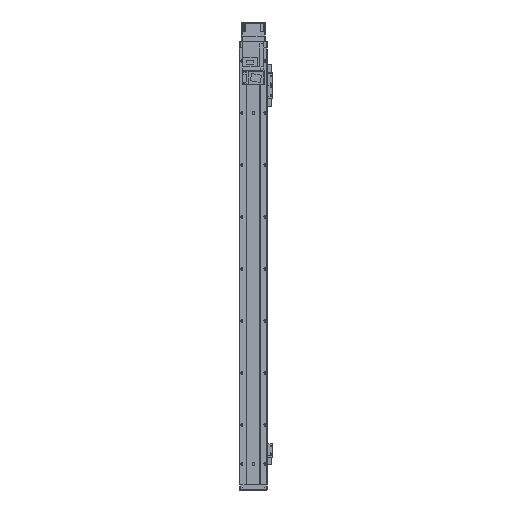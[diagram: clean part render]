
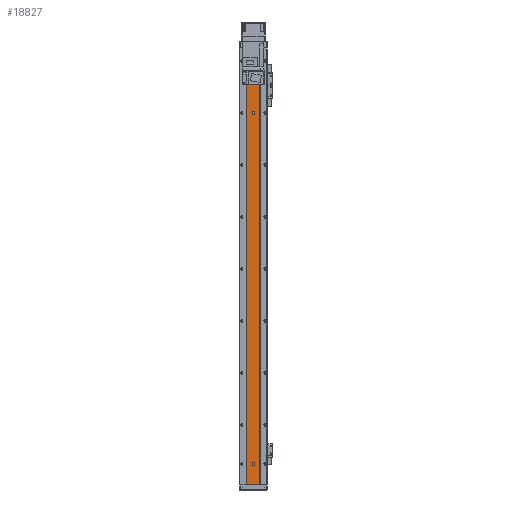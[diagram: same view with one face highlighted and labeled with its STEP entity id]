
A CAD part, front view. The second image highlights one B-rep face of the part: STEP entity #18827.
In plain terms, the highlighted planar face has unit normal (0, -1, 0).
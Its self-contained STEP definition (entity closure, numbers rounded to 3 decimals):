
#12 = EDGE_CURVE ( 'NONE', #6509, #9782, #36230, .T. ) ;
#355 = EDGE_LOOP ( 'NONE', ( #32797, #19000, #18614, #35798 ) ) ;
#561 = ORIENTED_EDGE ( 'NONE', *, *, #7846, .T. ) ;
#1481 = VERTEX_POINT ( 'NONE', #20799 ) ;
#1760 = AXIS2_PLACEMENT_3D ( 'NONE', #36121, #17765, #27318 ) ;
#2688 = CARTESIAN_POINT ( 'NONE',  ( 0., 1.5, -801. ) ) ;
#2728 = PLANE ( 'NONE',  #1760 ) ;
#3124 = VERTEX_POINT ( 'NONE', #3567 ) ;
#3399 = EDGE_CURVE ( 'NONE', #35459, #17438, #39446, .T. ) ;
#3567 = CARTESIAN_POINT ( 'NONE',  ( -2.5, 1.5, -799. ) ) ;
#3863 = EDGE_CURVE ( 'NONE', #3124, #12899, #28018, .T. ) ;
#4097 = EDGE_CURVE ( 'NONE', #12899, #1481, #27980, .T. ) ;
#4432 = VECTOR ( 'NONE', #21939, 1000. ) ;
#6130 = CARTESIAN_POINT ( 'NONE',  ( 0., 1.5, -25. ) ) ;
#6360 = CARTESIAN_POINT ( 'NONE',  ( -12.293, 1.5, -840. ) ) ;
#6509 = VERTEX_POINT ( 'NONE', #25401 ) ;
#6635 = DIRECTION ( 'NONE',  ( 0., -1., 0. ) ) ;
#7000 = DIRECTION ( 'NONE',  ( 0., 0., 1. ) ) ;
#7133 = CARTESIAN_POINT ( 'NONE',  ( -2.5, 1.5, -840. ) ) ;
#7567 = EDGE_LOOP ( 'NONE', ( #14944, #26878 ) ) ;
#7749 = VECTOR ( 'NONE', #9579, 1000. ) ;
#7768 = CIRCLE ( 'NONE', #28824, 2.5 ) ;
#7815 = DIRECTION ( 'NONE',  ( 1., 0., 0. ) ) ;
#7846 = EDGE_CURVE ( 'NONE', #18869, #17438, #17435, .T. ) ;
#8524 = EDGE_CURVE ( 'NONE', #38784, #3124, #7768, .T. ) ;
#8556 = CARTESIAN_POINT ( 'NONE',  ( -12.293, 1.5, 0. ) ) ;
#8659 = FACE_BOUND ( 'NONE', #7567, .T. ) ;
#8785 = DIRECTION ( 'NONE',  ( 0., -1., 0. ) ) ;
#9131 = EDGE_LOOP ( 'NONE', ( #36557, #9765, #32162, #561 ) ) ;
#9286 = EDGE_CURVE ( 'NONE', #37241, #38769, #35399, .T. ) ;
#9422 = DIRECTION ( 'NONE',  ( 1., 0., 0. ) ) ;
#9579 = DIRECTION ( 'NONE',  ( 0., 0., 1. ) ) ;
#9765 = ORIENTED_EDGE ( 'NONE', *, *, #37726, .F. ) ;
#9782 = VERTEX_POINT ( 'NONE', #30561 ) ;
#9800 = VECTOR ( 'NONE', #7815, 1000. ) ;
#10865 = AXIS2_PLACEMENT_3D ( 'NONE', #18620, #12345, #9422 ) ;
#11238 = VECTOR ( 'NONE', #24597, 1000. ) ;
#11714 = VECTOR ( 'NONE', #13510, 1000. ) ;
#11857 = DIRECTION ( 'NONE',  ( 1., 0., 0. ) ) ;
#12345 = DIRECTION ( 'NONE',  ( 0., -1., 0. ) ) ;
#12381 = DIRECTION ( 'NONE',  ( 1., 0., 0. ) ) ;
#12651 = CARTESIAN_POINT ( 'NONE',  ( 12.293, 1.5, -840. ) ) ;
#12899 = VERTEX_POINT ( 'NONE', #36255 ) ;
#12978 = CARTESIAN_POINT ( 'NONE',  ( 12.293, 1.5, -840. ) ) ;
#13366 = AXIS2_PLACEMENT_3D ( 'NONE', #28207, #31275, #12381 ) ;
#13510 = DIRECTION ( 'NONE',  ( 0., 0., -1. ) ) ;
#14558 = DIRECTION ( 'NONE',  ( 0., -1., 0. ) ) ;
#14944 = ORIENTED_EDGE ( 'NONE', *, *, #38299, .F. ) ;
#15434 = LINE ( 'NONE', #12978, #4432 ) ;
#15976 = CARTESIAN_POINT ( 'NONE',  ( 2.5, 1.5, -840. ) ) ;
#17435 = LINE ( 'NONE', #12651, #11238 ) ;
#17438 = VERTEX_POINT ( 'NONE', #31378 ) ;
#17765 = DIRECTION ( 'NONE',  ( 0., -1., 0. ) ) ;
#17831 = EDGE_LOOP ( 'NONE', ( #32887, #37005 ) ) ;
#18426 = DIRECTION ( 'NONE',  ( 1., 0., 0. ) ) ;
#18614 = ORIENTED_EDGE ( 'NONE', *, *, #8524, .F. ) ;
#18620 = CARTESIAN_POINT ( 'NONE',  ( 0., 1.5, -125. ) ) ;
#18827 = ADVANCED_FACE ( 'NONE', ( #24946, #8659, #32585, #39263 ), #2728, .T. ) ;
#18869 = VERTEX_POINT ( 'NONE', #27180 ) ;
#19000 = ORIENTED_EDGE ( 'NONE', *, *, #3863, .F. ) ;
#19008 = AXIS2_PLACEMENT_3D ( 'NONE', #6130, #6635, #36593 ) ;
#19114 = CARTESIAN_POINT ( 'NONE',  ( -12.293, 1.5, -840. ) ) ;
#20084 = EDGE_CURVE ( 'NONE', #35241, #18869, #15434, .T. ) ;
#20799 = CARTESIAN_POINT ( 'NONE',  ( 2.5, 1.5, -801. ) ) ;
#20959 = CARTESIAN_POINT ( 'NONE',  ( 0., 1.5, -799. ) ) ;
#21294 = VECTOR ( 'NONE', #7000, 1000. ) ;
#21501 = CARTESIAN_POINT ( 'NONE',  ( 0., 1.5, -125. ) ) ;
#21591 = CARTESIAN_POINT ( 'NONE',  ( 2.5, 1.5, -799. ) ) ;
#21764 = CARTESIAN_POINT ( 'NONE',  ( -2.5, 1.5, -125. ) ) ;
#21778 = LINE ( 'NONE', #6360, #21294 ) ;
#21939 = DIRECTION ( 'NONE',  ( 1., 0., 0. ) ) ;
#22552 = EDGE_CURVE ( 'NONE', #9782, #6509, #25578, .T. ) ;
#24597 = DIRECTION ( 'NONE',  ( 0., 0., 1. ) ) ;
#24946 = FACE_BOUND ( 'NONE', #355, .T. ) ;
#25149 = AXIS2_PLACEMENT_3D ( 'NONE', #21501, #27582, #18426 ) ;
#25401 = CARTESIAN_POINT ( 'NONE',  ( -2.5, 1.5, -25. ) ) ;
#25578 = CIRCLE ( 'NONE', #19008, 2.5 ) ;
#26878 = ORIENTED_EDGE ( 'NONE', *, *, #9286, .F. ) ;
#27180 = CARTESIAN_POINT ( 'NONE',  ( 12.293, 1.5, -840. ) ) ;
#27187 = EDGE_CURVE ( 'NONE', #1481, #38784, #28348, .T. ) ;
#27318 = DIRECTION ( 'NONE',  ( 1., 0., 0. ) ) ;
#27582 = DIRECTION ( 'NONE',  ( 0., -1., 0. ) ) ;
#27980 = CIRCLE ( 'NONE', #31936, 2.5 ) ;
#28018 = LINE ( 'NONE', #7133, #11714 ) ;
#28207 = CARTESIAN_POINT ( 'NONE',  ( 0., 1.5, -25. ) ) ;
#28348 = LINE ( 'NONE', #15976, #7749 ) ;
#28824 = AXIS2_PLACEMENT_3D ( 'NONE', #20959, #14558, #39272 ) ;
#30369 = CIRCLE ( 'NONE', #25149, 2.5 ) ;
#30561 = CARTESIAN_POINT ( 'NONE',  ( 2.5, 1.5, -25. ) ) ;
#31275 = DIRECTION ( 'NONE',  ( 0., -1., 0. ) ) ;
#31378 = CARTESIAN_POINT ( 'NONE',  ( 12.293, 1.5, 0. ) ) ;
#31936 = AXIS2_PLACEMENT_3D ( 'NONE', #2688, #8785, #11857 ) ;
#32162 = ORIENTED_EDGE ( 'NONE', *, *, #20084, .T. ) ;
#32585 = FACE_BOUND ( 'NONE', #17831, .T. ) ;
#32797 = ORIENTED_EDGE ( 'NONE', *, *, #4097, .F. ) ;
#32887 = ORIENTED_EDGE ( 'NONE', *, *, #22552, .F. ) ;
#35241 = VERTEX_POINT ( 'NONE', #19114 ) ;
#35399 = CIRCLE ( 'NONE', #10865, 2.5 ) ;
#35459 = VERTEX_POINT ( 'NONE', #8556 ) ;
#35798 = ORIENTED_EDGE ( 'NONE', *, *, #27187, .F. ) ;
#36121 = CARTESIAN_POINT ( 'NONE',  ( 12.293, 1.5, -840. ) ) ;
#36230 = CIRCLE ( 'NONE', #13366, 2.5 ) ;
#36255 = CARTESIAN_POINT ( 'NONE',  ( -2.5, 1.5, -801. ) ) ;
#36557 = ORIENTED_EDGE ( 'NONE', *, *, #3399, .F. ) ;
#36593 = DIRECTION ( 'NONE',  ( 1., 0., 0. ) ) ;
#36863 = CARTESIAN_POINT ( 'NONE',  ( 2.5, 1.5, -125. ) ) ;
#37005 = ORIENTED_EDGE ( 'NONE', *, *, #12, .F. ) ;
#37241 = VERTEX_POINT ( 'NONE', #21764 ) ;
#37726 = EDGE_CURVE ( 'NONE', #35241, #35459, #21778, .T. ) ;
#38124 = CARTESIAN_POINT ( 'NONE',  ( 12.293, 1.5, 0. ) ) ;
#38299 = EDGE_CURVE ( 'NONE', #38769, #37241, #30369, .T. ) ;
#38769 = VERTEX_POINT ( 'NONE', #36863 ) ;
#38784 = VERTEX_POINT ( 'NONE', #21591 ) ;
#39263 = FACE_OUTER_BOUND ( 'NONE', #9131, .T. ) ;
#39272 = DIRECTION ( 'NONE',  ( 1., 0., 0. ) ) ;
#39446 = LINE ( 'NONE', #38124, #9800 ) ;
